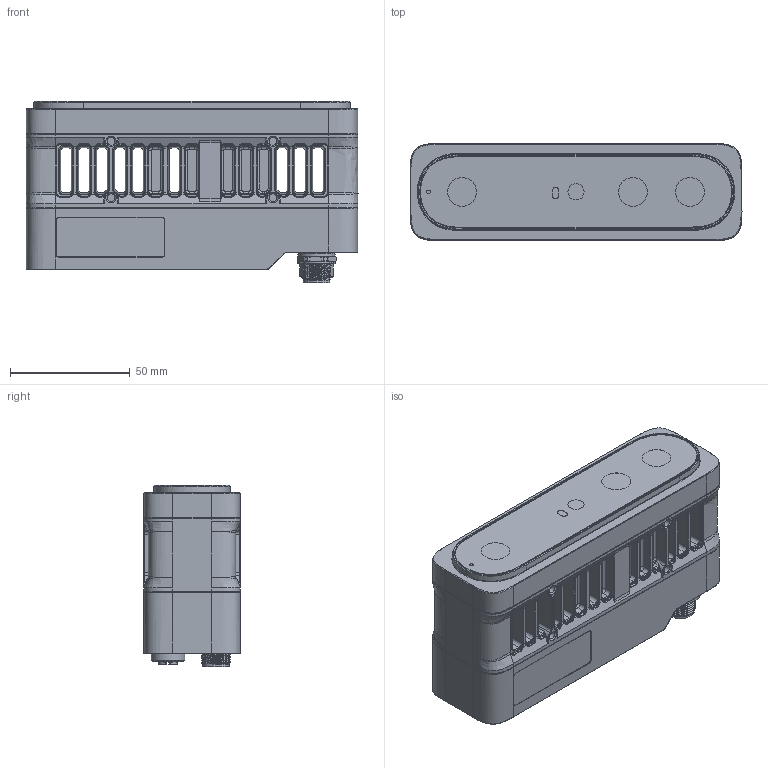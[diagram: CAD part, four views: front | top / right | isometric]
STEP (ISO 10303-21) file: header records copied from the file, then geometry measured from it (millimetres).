
FILE_DESCRIPTION(/* description */ (''),/* implementation_level */ '2;1');
FILE_NAME(/* name */ '118107.stp',/* time_stamp */ '2026-06-23T05:19:37+02:00',/* author */ (''),/* organization */ (''),/* preprocessor_version */ 'ST-DEVELOPER v20',/* originating_system */ 'Autodesk Inventor 2024',/* authorisation */ '');
FILE_SCHEMA (('CONFIG_CONTROL_DESIGN'));
Products named in the file (1): 118107
Bounding box: 138.4 x 40.4 x 75.5 mm (x, y, z)
Volume: 324215.8 mm3; surface area: 76865.9 mm2
Topology: 4 solids, 14 shells, 2773 faces, 6663 edges, 3960 vertices
Faces by surface type: bspline 846, plane 609, cylinder 576, cone 386, torus 348, sphere 8
Full cylindrical faces by diameter (mm): 0.66 x8, 0.8 x8, 0.806 x8, 1.1 x8, 1.159 x8, 1.26 x8, 1.3 x8, 1.31 x8, 1.5 x2, 2 x2, 3.3 x12, 4.8 x6, 6.7 x2, 8.4 x2, 8.8 x1, 9.2 x1, 9.4 x2, 9.6 x1, 10.3 x1, 10.901 x1, 11 x11, 12 x17, 14 x1
Entity records: 164738 total; most frequent: CARTESIAN_POINT 101864, ORIENTED_EDGE 13180, DIRECTION 12032, EDGE_CURVE 6644, AXIS2_PLACEMENT_3D 4971, VERTEX_POINT 3960, EDGE_LOOP 2878, CIRCLE 2810
